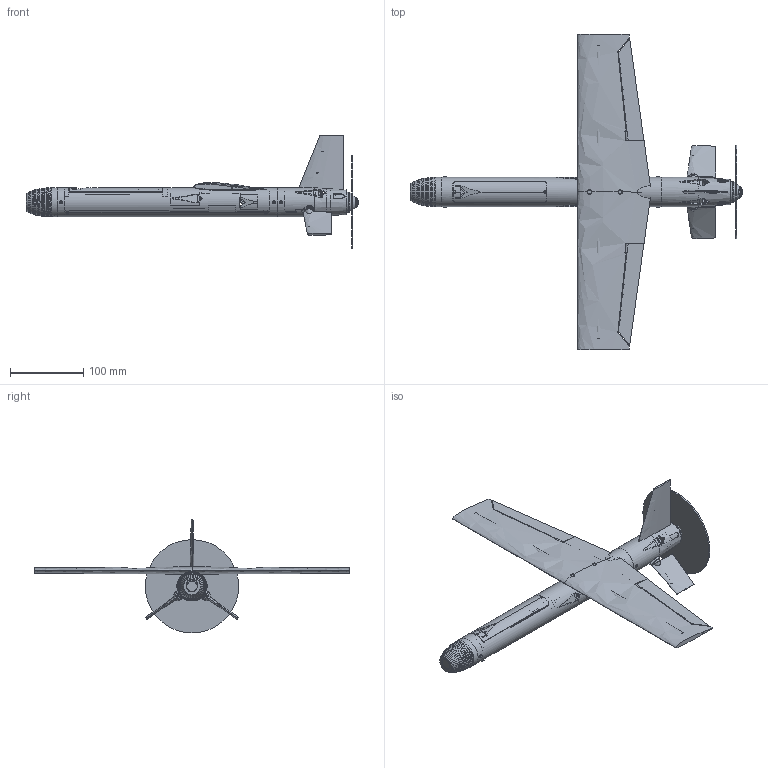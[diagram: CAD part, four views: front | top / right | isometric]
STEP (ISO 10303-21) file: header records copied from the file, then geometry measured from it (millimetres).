
FILE_DESCRIPTION(('SkyG Speed 90B - revision C6B-1 - 2026-10-07','C6B-assembly'),'2;1');
FILE_NAME('C6B-assembly_C6B-1','2026-10-07T21:43:17',('Author'),( 'Open CASCADE'),'Open CASCADE STEP processor 7.9','Open CASCADE 7.9' ,'Unknown');
FILE_SCHEMA(('AUTOMOTIVE_DESIGN { 1 0 10303 214 1 1 1 1 }'));
Length unit declared in the file: millimetre
Products named in the file (134): C4; N0M-nose-micro-camera; N0M-vtx-shelf; F3-tail-module; WR-wing-right; WL-wing-left; AR-aileron-right; AL-aileron-left; SR-stabilator-right; SL-stabilator-left; FN-fin; AHR-aileron-horn-right; AHL-aileron-horn-left; THR-tail-horn-right; THL-tail-horn-left; DI-inlet-right; DO-outlet-main-right; DI-inlet-left; DO-outlet-main-left; TR-equipment-tray; TC-tail-coupler; NB1-wing-nut-bar-front; NB2-wing-nut-bar-rear; HL1-hatch-lip-front; HL2-hatch-lip-rear; HF-front-hatch; HG-gps-carrier; M1-motor-plate; SP-spinner; ENV-motor; ENV-prop_disc; ENV-prop_hub_nut; ENV-battery; ENV-camera_micro19; ENV-cam_screws; ENV-O_o4_camera; ENV-O_o4_screws; ENV-O_o4_module; ENV-vtx; ENV-gnss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
Assembly tree (133 placements, depth 2):
  C4
    N0M-nose-micro-camera
    N0M-vtx-shelf
    F3-tail-module
    WR-wing-right
    WL-wing-left
    AR-aileron-right
    AL-aileron-left
    SR-stabilator-right
    SL-stabilator-left
    FN-fin
    AHR-aileron-horn-right
    AHL-aileron-horn-left
    THR-tail-horn-right
    THL-tail-horn-left
    DI-inlet-right
    DO-outlet-main-right
    DI-inlet-left
    DO-outlet-main-left
    TR-equipment-tray
    TC-tail-coupler
    NB1-wing-nut-bar-front
    NB2-wing-nut-bar-rear
    HL1-hatch-lip-front
    HL2-hatch-lip-rear
    HF-front-hatch
    HG-gps-carrier
    M1-motor-plate
    SP-spinner
    ENV-motor
    ENV-prop_disc
    ENV-prop_hub_nut
    ENV-battery
    ENV-camera_micro19
    ENV-cam_screws
    ENV-O_o4_camera
    ENV-O_o4_screws
    ENV-O_o4_module
    ENV-vtx
    ENV-gnss
    ENV-flight_controller
    ENV-ail_servo_arm
    ENV-ail_rod_R
    ENV-ail_link_R
    ENV-ail_rod_L
    ENV-ail_link_L
    ENV-ail_spine_R
    ENV-ail_spine_L
    ENV-receiver
    ENV-ant_elrs
    ENV-ant_vtx
    ENV-O_ant_video
    ENV-aileron_servo
    ENV-tail_servo_L
    ENV-tail_servo_R
    ENV-esc
    ENV-tail_servo_arm_R
    ENV-tail_link_R
    ENV-tail_servo_arm_L
    ENV-tail_link_L
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Bounding box: 452.19 x 430 x 155.1 mm (x, y, z)
Volume: 472297.5 mm3; surface area: 342808.9 mm2
Topology: 170 solids, 170 shells, 2512 faces, 6450 edges, 4279 vertices
Faces by surface type: plane 1602, cylinder 417, bspline 343, cone 110, torus 15, sphere 14, revolution 11
Full cylindrical faces by diameter (mm): 0.98 x6, 1.107 x11, 1.2 x22, 1.25 x8, 1.5 x2, 1.6 x26, 1.9 x1, 2 x26, 2.1 x2, 2.2 x12, 2.5 x2, 2.6 x6, 2.842 x6, 3 x13, 3.05 x2, 3.2 x4, 3.8 x10, 3.9 x3, 3.94 x3, 4 x4, 5 x4, 5.2 x3, 5.5 x4, 5.6 x3, 6 x3, 9 x1, 9.2 x1, 12.7 x1, 13 x2, 14 x1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
Entity records: 383948 total; most frequent: CARTESIAN_POINT 263333, DIRECTION 18018, ORIENTED_EDGE 12872, PCURVE 12872, DEFINITIONAL_REPRESENTATION 12872, LINE 8709, VECTOR 8709, B_SPLINE_CURVE_WITH_KNOTS 7015
